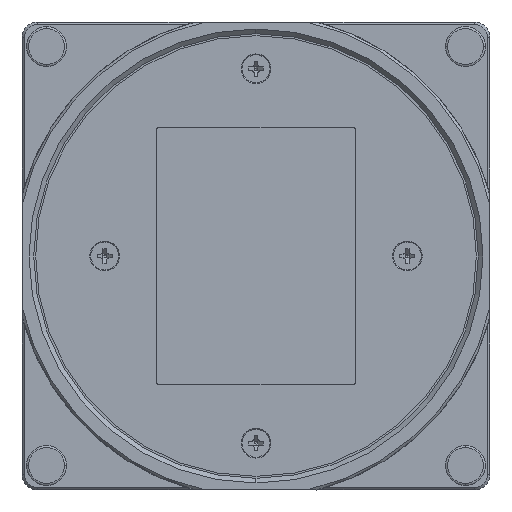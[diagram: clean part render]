
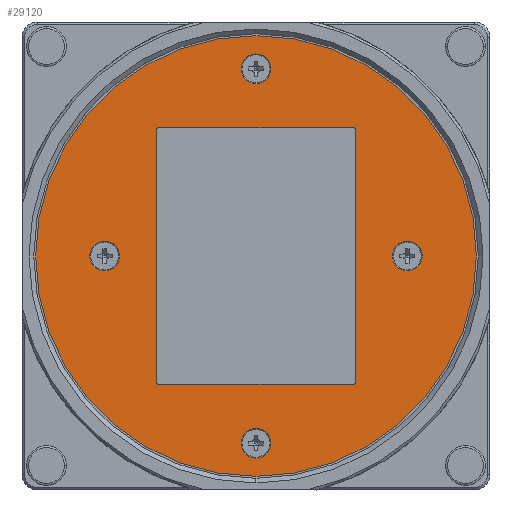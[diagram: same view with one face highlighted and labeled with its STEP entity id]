
A CAD part, left-side view. The second image highlights one B-rep face of the part: STEP entity #29120.
In plain terms, the highlighted planar face has unit normal (-1, 0, 0).
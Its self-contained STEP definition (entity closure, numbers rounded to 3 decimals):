
#159=CARTESIAN_POINT('',(-0.21,0.,0.));
#160=DIRECTION('',(1.,0.,0.));
#161=DIRECTION('',(0.,-1.,0.));
#162=AXIS2_PLACEMENT_3D('',#159,#160,#161);
#164=CARTESIAN_POINT('',(-0.21,0.,0.));
#165=DIRECTION('',(1.,0.,0.));
#166=DIRECTION('',(0.,1.,0.));
#167=AXIS2_PLACEMENT_3D('',#164,#165,#166);
#169=CARTESIAN_POINT('',(-0.21,0.,-24.));
#170=DIRECTION('',(-1.,0.,0.));
#171=DIRECTION('',(0.,-1.,0.));
#172=AXIS2_PLACEMENT_3D('',#169,#170,#171);
#174=CARTESIAN_POINT('',(-0.21,0.,-24.));
#175=DIRECTION('',(-1.,0.,0.));
#176=DIRECTION('',(0.,1.,0.));
#177=AXIS2_PLACEMENT_3D('',#174,#175,#176);
#179=CARTESIAN_POINT('',(-0.21,19.4,0.));
#180=DIRECTION('',(-1.,0.,0.));
#181=DIRECTION('',(0.,-1.,0.));
#182=AXIS2_PLACEMENT_3D('',#179,#180,#181);
#184=CARTESIAN_POINT('',(-0.21,19.4,0.));
#185=DIRECTION('',(-1.,0.,0.));
#186=DIRECTION('',(0.,1.,0.));
#187=AXIS2_PLACEMENT_3D('',#184,#185,#186);
#189=CARTESIAN_POINT('',(-0.21,-19.4,0.));
#190=DIRECTION('',(-1.,0.,0.));
#191=DIRECTION('',(0.,-1.,0.));
#192=AXIS2_PLACEMENT_3D('',#189,#190,#191);
#194=CARTESIAN_POINT('',(-0.21,-19.4,0.));
#195=DIRECTION('',(-1.,0.,0.));
#196=DIRECTION('',(0.,1.,0.));
#197=AXIS2_PLACEMENT_3D('',#194,#195,#196);
#199=CARTESIAN_POINT('',(-0.21,0.,24.));
#200=DIRECTION('',(-1.,0.,0.));
#201=DIRECTION('',(0.,-1.,0.));
#202=AXIS2_PLACEMENT_3D('',#199,#200,#201);
#204=CARTESIAN_POINT('',(-0.21,0.,24.));
#205=DIRECTION('',(-1.,0.,0.));
#206=DIRECTION('',(0.,1.,0.));
#207=AXIS2_PLACEMENT_3D('',#204,#205,#206);
#209=CARTESIAN_POINT('',(-0.21,12.503,-16.25));
#210=DIRECTION('',(-1.,0.,0.));
#211=DIRECTION('',(0.,1.,0.));
#212=AXIS2_PLACEMENT_3D('',#209,#210,#211);
#214=CARTESIAN_POINT('',(-0.21,-12.497,-16.25));
#215=DIRECTION('',(-1.,0.,0.));
#216=DIRECTION('',(0.,0.,-1.));
#217=AXIS2_PLACEMENT_3D('',#214,#215,#216);
#219=CARTESIAN_POINT('',(-0.21,-12.497,16.25));
#220=DIRECTION('',(-1.,0.,0.));
#221=DIRECTION('',(0.,-1.,0.));
#222=AXIS2_PLACEMENT_3D('',#219,#220,#221);
#224=CARTESIAN_POINT('',(-0.21,12.503,16.25));
#225=DIRECTION('',(-1.,0.,0.));
#226=DIRECTION('',(0.,0.,1.));
#227=AXIS2_PLACEMENT_3D('',#224,#225,#226);
#23537=DIRECTION('',(0.,0.,1.));
#23538=VECTOR('',#23537,32.5);
#23539=CARTESIAN_POINT('',(-0.21,12.703,-16.25));
#23540=LINE('',#23539,#23538);
#23585=DIRECTION('',(0.,-1.,0.));
#23586=VECTOR('',#23585,25.);
#23587=CARTESIAN_POINT('',(-0.21,12.503,16.45));
#23588=LINE('',#23587,#23586);
#23597=DIRECTION('',(0.,0.,-1.));
#23598=VECTOR('',#23597,32.5);
#23599=CARTESIAN_POINT('',(-0.21,-12.697,16.25));
#23600=LINE('',#23599,#23598);
#23609=DIRECTION('',(0.,1.,0.));
#23610=VECTOR('',#23609,25.);
#23611=CARTESIAN_POINT('',(-0.21,-12.497,-16.45));
#23612=LINE('',#23611,#23610);
#24346=CARTESIAN_POINT('',(-0.21,-28.25,0.));
#24347=CARTESIAN_POINT('',(-0.21,28.25,0.));
#24348=VERTEX_POINT('',#24346);
#24349=VERTEX_POINT('',#24347);
#24350=CARTESIAN_POINT('',(-0.21,-1.9,-24.));
#24351=CARTESIAN_POINT('',(-0.21,1.9,-24.));
#24352=VERTEX_POINT('',#24350);
#24353=VERTEX_POINT('',#24351);
#24354=CARTESIAN_POINT('',(-0.21,17.5,0.));
#24355=CARTESIAN_POINT('',(-0.21,21.3,0.));
#24356=VERTEX_POINT('',#24354);
#24357=VERTEX_POINT('',#24355);
#24358=CARTESIAN_POINT('',(-0.21,-21.3,0.));
#24359=CARTESIAN_POINT('',(-0.21,-17.5,0.));
#24360=VERTEX_POINT('',#24358);
#24361=VERTEX_POINT('',#24359);
#24362=CARTESIAN_POINT('',(-0.21,-1.9,24.));
#24363=CARTESIAN_POINT('',(-0.21,1.9,24.));
#24364=VERTEX_POINT('',#24362);
#24365=VERTEX_POINT('',#24363);
#24366=CARTESIAN_POINT('',(-0.21,12.703,-16.25));
#24367=CARTESIAN_POINT('',(-0.21,12.703,16.25));
#24368=VERTEX_POINT('',#24366);
#24369=VERTEX_POINT('',#24367);
#24370=CARTESIAN_POINT('',(-0.21,12.503,-16.45));
#24371=VERTEX_POINT('',#24370);
#24372=CARTESIAN_POINT('',(-0.21,-12.497,-16.45));
#24373=VERTEX_POINT('',#24372);
#24374=CARTESIAN_POINT('',(-0.21,-12.697,-16.25));
#24375=VERTEX_POINT('',#24374);
#24376=CARTESIAN_POINT('',(-0.21,-12.697,16.25));
#24377=VERTEX_POINT('',#24376);
#24378=CARTESIAN_POINT('',(-0.21,-12.497,16.45));
#24379=VERTEX_POINT('',#24378);
#24380=CARTESIAN_POINT('',(-0.21,12.503,16.45));
#24381=VERTEX_POINT('',#24380);
#29069=CARTESIAN_POINT('',(-0.21,0.,0.));
#29070=DIRECTION('',(1.,0.,0.));
#29071=DIRECTION('',(0.,1.,0.));
#29072=AXIS2_PLACEMENT_3D('',#29069,#29070,#29071);
#29073=PLANE('',#29072);
#29075=ORIENTED_EDGE('',*,*,#29074,.T.);
#29077=ORIENTED_EDGE('',*,*,#29076,.T.);
#29078=EDGE_LOOP('',(#29075,#29077));
#29079=FACE_OUTER_BOUND('',#29078,.F.);
#29080=ORIENTED_EDGE('',*,*,#29051,.T.);
#29081=ORIENTED_EDGE('',*,*,#29036,.T.);
#29082=EDGE_LOOP('',(#29080,#29081));
#29083=FACE_BOUND('',#29082,.F.);
#29085=ORIENTED_EDGE('',*,*,#29084,.T.);
#29087=ORIENTED_EDGE('',*,*,#29086,.T.);
#29088=EDGE_LOOP('',(#29085,#29087));
#29089=FACE_BOUND('',#29088,.F.);
#29091=ORIENTED_EDGE('',*,*,#29090,.T.);
#29093=ORIENTED_EDGE('',*,*,#29092,.T.);
#29094=EDGE_LOOP('',(#29091,#29093));
#29095=FACE_BOUND('',#29094,.F.);
#29097=ORIENTED_EDGE('',*,*,#29096,.T.);
#29099=ORIENTED_EDGE('',*,*,#29098,.T.);
#29100=EDGE_LOOP('',(#29097,#29099));
#29101=FACE_BOUND('',#29100,.F.);
#29103=ORIENTED_EDGE('',*,*,#29102,.F.);
#29105=ORIENTED_EDGE('',*,*,#29104,.T.);
#29107=ORIENTED_EDGE('',*,*,#29106,.F.);
#29109=ORIENTED_EDGE('',*,*,#29108,.T.);
#29111=ORIENTED_EDGE('',*,*,#29110,.F.);
#29113=ORIENTED_EDGE('',*,*,#29112,.T.);
#29115=ORIENTED_EDGE('',*,*,#29114,.F.);
#29117=ORIENTED_EDGE('',*,*,#29116,.T.);
#29118=EDGE_LOOP('',(#29103,#29105,#29107,#29109,#29111,#29113,#29115,#29117));
#29119=FACE_BOUND('',#29118,.F.);
#29120=ADVANCED_FACE('',(#29079,#29083,#29089,#29095,#29101,#29119),#29073,.F.);
#163=CIRCLE('',#162,28.25);
#168=CIRCLE('',#167,28.25);
#173=CIRCLE('',#172,1.9);
#178=CIRCLE('',#177,1.9);
#183=CIRCLE('',#182,1.9);
#188=CIRCLE('',#187,1.9);
#193=CIRCLE('',#192,1.9);
#198=CIRCLE('',#197,1.9);
#203=CIRCLE('',#202,1.9);
#208=CIRCLE('',#207,1.9);
#213=CIRCLE('',#212,0.2);
#218=CIRCLE('',#217,0.2);
#223=CIRCLE('',#222,0.2);
#228=CIRCLE('',#227,0.2);
#29036=EDGE_CURVE('',#24353,#24352,#178,.T.);
#29051=EDGE_CURVE('',#24352,#24353,#173,.T.);
#29074=EDGE_CURVE('',#24348,#24349,#163,.T.);
#29076=EDGE_CURVE('',#24349,#24348,#168,.T.);
#29084=EDGE_CURVE('',#24356,#24357,#183,.T.);
#29086=EDGE_CURVE('',#24357,#24356,#188,.T.);
#29090=EDGE_CURVE('',#24360,#24361,#193,.T.);
#29092=EDGE_CURVE('',#24361,#24360,#198,.T.);
#29096=EDGE_CURVE('',#24364,#24365,#203,.T.);
#29098=EDGE_CURVE('',#24365,#24364,#208,.T.);
#29102=EDGE_CURVE('',#24368,#24369,#23540,.T.);
#29104=EDGE_CURVE('',#24368,#24371,#213,.T.);
#29106=EDGE_CURVE('',#24373,#24371,#23612,.T.);
#29108=EDGE_CURVE('',#24373,#24375,#218,.T.);
#29110=EDGE_CURVE('',#24377,#24375,#23600,.T.);
#29112=EDGE_CURVE('',#24377,#24379,#223,.T.);
#29114=EDGE_CURVE('',#24381,#24379,#23588,.T.);
#29116=EDGE_CURVE('',#24381,#24369,#228,.T.);
